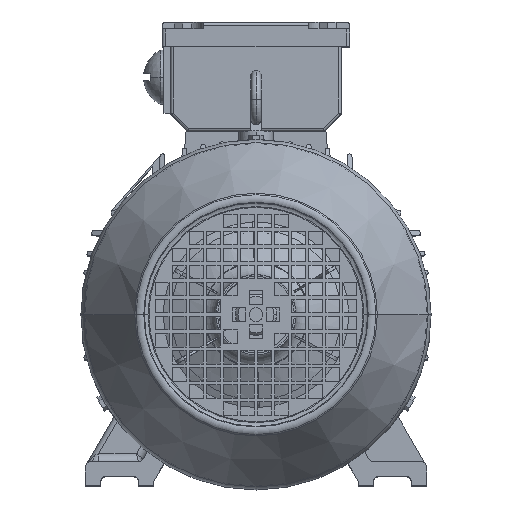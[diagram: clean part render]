
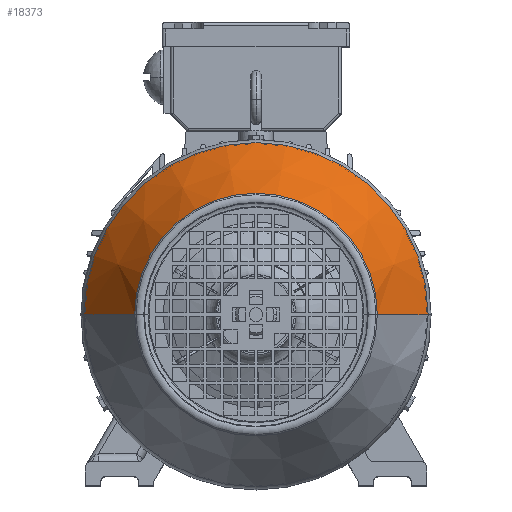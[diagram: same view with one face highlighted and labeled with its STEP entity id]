
A CAD part, top view. The second image highlights one B-rep face of the part: STEP entity #18373.
In plain terms, the highlighted conical face has half-angle 30 degrees and reference radius 100.958 mm.
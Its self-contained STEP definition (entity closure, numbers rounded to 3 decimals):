
#7439 = DIRECTION ( 'NONE',  ( -0.5, 0., -0.866 ) ) ;
#7449 = DIRECTION ( 'NONE',  ( 0.5, 0., -0.866 ) ) ;
#7453 = CARTESIAN_POINT ( 'NONE',  ( 100.958, 0., 150.379 ) ) ;
#7454 = CARTESIAN_POINT ( 'NONE',  ( 0., 0., 202. ) ) ;
#7455 = DIRECTION ( 'NONE',  ( 0., 0., -1. ) ) ;
#7456 = DIRECTION ( 'NONE',  ( -1., 0., 0. ) ) ;
#7457 = CARTESIAN_POINT ( 'NONE',  ( -100.958, 0., 150.379 ) ) ;
#7458 = CARTESIAN_POINT ( 'NONE',  ( 0., 0., 150.379 ) ) ;
#7459 = DIRECTION ( 'NONE',  ( 0., 0., -1. ) ) ;
#7460 = DIRECTION ( 'NONE',  ( -1., 0., 0. ) ) ;
#8030 = LINE ( 'NONE', #7453, #8050 ) ;
#8047 = CIRCLE ( 'NONE', #45053, 71.155 ) ;
#8048 = LINE ( 'NONE', #7457, #8053 ) ;
#8049 = CIRCLE ( 'NONE', #45054, 100.958 ) ;
#8050 = VECTOR ( 'NONE', #7449, 1000. ) ;
#8053 = VECTOR ( 'NONE', #7439, 1000. ) ;
#11196 = VERTEX_POINT ( 'NONE', #20962 ) ;
#11199 = VERTEX_POINT ( 'NONE', #20968 ) ;
#11222 = VERTEX_POINT ( 'NONE', #21010 ) ;
#11235 = VERTEX_POINT ( 'NONE', #21034 ) ;
#18373 = ADVANCED_FACE ( 'NONE', ( #35974 ), #35977, .T. ) ;
#20962 = CARTESIAN_POINT ( 'NONE',  ( -71.155, 0., 202. ) ) ;
#20968 = CARTESIAN_POINT ( 'NONE',  ( 71.155, 0., 202. ) ) ;
#21010 = CARTESIAN_POINT ( 'NONE',  ( -100.958, 0., 150.379 ) ) ;
#21034 = CARTESIAN_POINT ( 'NONE',  ( 100.958, 0., 150.379 ) ) ;
#31681 = EDGE_CURVE ( 'NONE', #11196, #11199, #8047, .T. ) ;
#31682 = EDGE_CURVE ( 'NONE', #11199, #11235, #8030, .T. ) ;
#31683 = EDGE_CURVE ( 'NONE', #11222, #11235, #8049, .T. ) ;
#31684 = EDGE_CURVE ( 'NONE', #11196, #11222, #8048, .T. ) ;
#33626 = ORIENTED_EDGE ( 'NONE', *, *, #31681, .T. ) ;
#33627 = ORIENTED_EDGE ( 'NONE', *, *, #31682, .T. ) ;
#33629 = ORIENTED_EDGE ( 'NONE', *, *, #31683, .F. ) ;
#33631 = ORIENTED_EDGE ( 'NONE', *, *, #31684, .F. ) ;
#33901 = EDGE_LOOP ( 'NONE', ( #33626, #33627, #33629, #33631 ) ) ;
#34826 = AXIS2_PLACEMENT_3D ( 'NONE', #37636, #37633, #37632 ) ;
#35974 = FACE_OUTER_BOUND ( 'NONE', #33901, .T. ) ;
#35977 = CONICAL_SURFACE ( 'NONE', #34826, 100.958, 0.524 ) ;
#37632 = DIRECTION ( 'NONE',  ( -1., 0., 0. ) ) ;
#37633 = DIRECTION ( 'NONE',  ( 0., 0., -1. ) ) ;
#37636 = CARTESIAN_POINT ( 'NONE',  ( 0., 0., 150.379 ) ) ;
#45053 = AXIS2_PLACEMENT_3D ( 'NONE', #7454, #7455, #7456 ) ;
#45054 = AXIS2_PLACEMENT_3D ( 'NONE', #7458, #7459, #7460 ) ;
